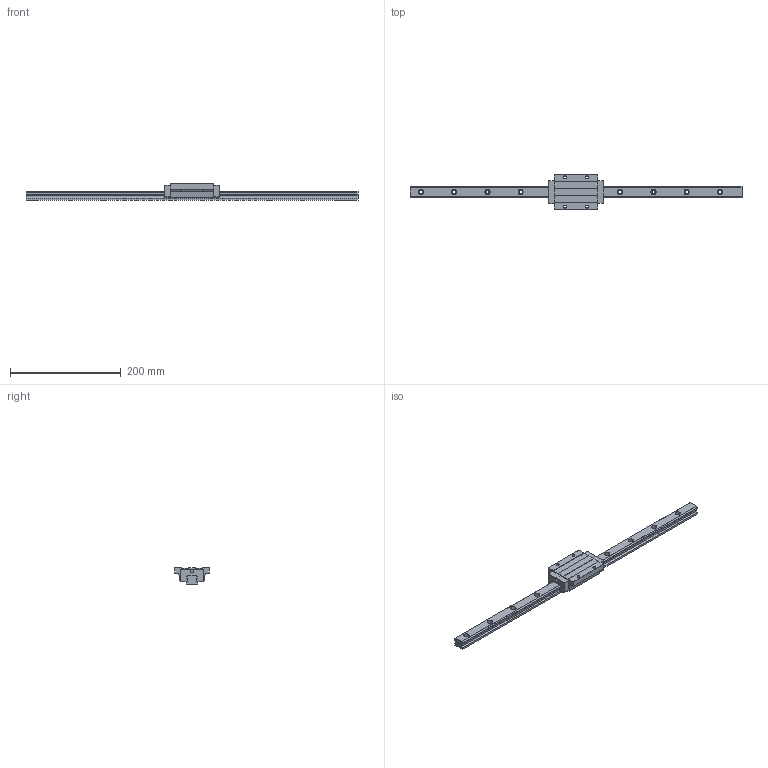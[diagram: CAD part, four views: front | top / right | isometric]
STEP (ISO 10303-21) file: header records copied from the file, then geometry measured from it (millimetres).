
FILE_DESCRIPTION (( 'STEP AP203' ), '1' );
FILE_NAME ('TRH20FE-XN-§ï.STEP', '2023-08-29T08:52:38', ( '' ), ( '' ), 'SwSTEP 2.0', 'SolidWorks 2022', '' );
FILE_SCHEMA (( 'CONFIG_CONTROL_DESIGN' ));
Length unit declared in the file: millimetre
Products named in the file (1): TRH20FE-XN-改
Bounding box: 600 x 63 x 30 mm (x, y, z)
Volume: 265854.6 mm3; surface area: 69199.1 mm2
Topology: 1 solids, 1 shells, 187 faces, 530 edges, 346 vertices
Faces by surface type: cylinder 100, plane 83, sphere 4
Entity records: 6533 total; most frequent: CARTESIAN_POINT 1412, DIRECTION 1078, ORIENTED_EDGE 1052, EDGE_CURVE 526, AXIS2_PLACEMENT_3D 382, VERTEX_POINT 346, LINE 314, VECTOR 314
